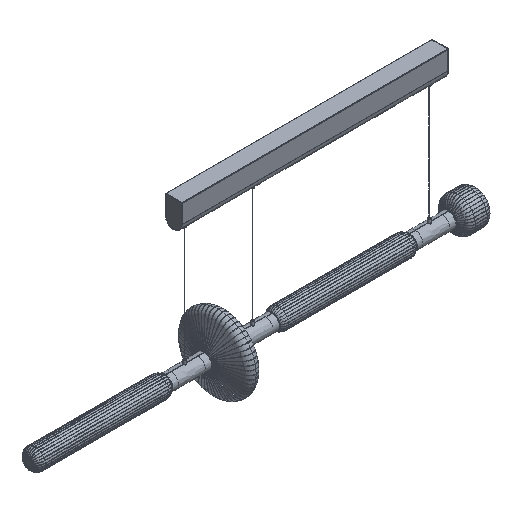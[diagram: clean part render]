
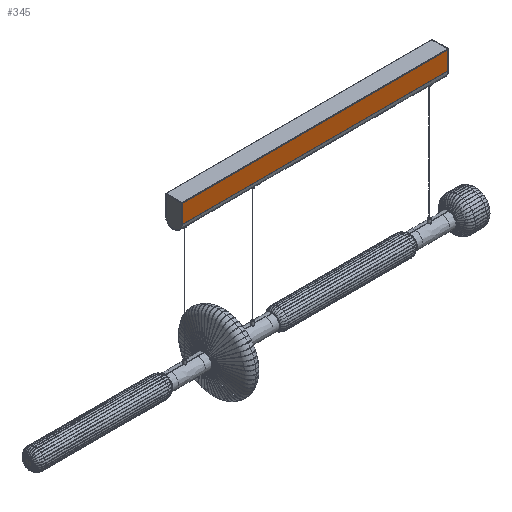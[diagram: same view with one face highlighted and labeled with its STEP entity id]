
A CAD part, isometric view. The second image highlights one B-rep face of the part: STEP entity #345.
In plain terms, the highlighted free-form (B-spline) face has degree [1, 1] with [2, 2] control points.
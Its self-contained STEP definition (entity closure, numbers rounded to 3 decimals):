
#345=ADVANCED_FACE('',(#2181),#57832,.T.);
#2181=FACE_OUTER_BOUND('',#4023,.T.);
#4023=EDGE_LOOP('',(#5925,#5926,#5927,#5928));
#5925=ORIENTED_EDGE('',*,*,#41490,.T.);
#5926=ORIENTED_EDGE('',*,*,#41486,.F.);
#5927=ORIENTED_EDGE('',*,*,#41491,.T.);
#5928=ORIENTED_EDGE('',*,*,#41492,.T.);
#19104=PCURVE('',#58295,#28060);
#19111=PCURVE('',#57832,#28067);
#19112=PCURVE('',#57832,#28068);
#19113=PCURVE('',#57832,#28069);
#19114=PCURVE('',#57832,#28070);
#19116=PCURVE('',#57833,#28072);
#19125=PCURVE('',#57834,#28081);
#19128=PCURVE('',#57835,#28084);
#28060=DEFINITIONAL_REPRESENTATION('',(#46002),#169568);
#28067=DEFINITIONAL_REPRESENTATION('',(#46013),#169568);
#28068=DEFINITIONAL_REPRESENTATION('',(#46014),#169568);
#28069=DEFINITIONAL_REPRESENTATION('',(#46016),#169568);
#28070=DEFINITIONAL_REPRESENTATION('',(#46018),#169568);
#28072=DEFINITIONAL_REPRESENTATION('',(#46021),#169568);
#28081=DEFINITIONAL_REPRESENTATION('',(#46029),#169568);
#28084=DEFINITIONAL_REPRESENTATION('',(#46032),#169568);
#37008=SURFACE_CURVE('',#46001,(#19104,#19112),.PCURVE_S1.);
#37012=SURFACE_CURVE('',#46012,(#19111,#19125),.PCURVE_S1.);
#37013=SURFACE_CURVE('',#46015,(#19113,#19128),.PCURVE_S1.);
#37014=SURFACE_CURVE('',#46017,(#19114,#19116),.PCURVE_S1.);
#41486=EDGE_CURVE('',#55160,#55159,#37008,.T.);
#41490=EDGE_CURVE('',#55161,#55159,#37012,.T.);
#41491=EDGE_CURVE('',#55160,#55162,#37013,.T.);
#41492=EDGE_CURVE('',#55162,#55161,#37014,.T.);
#46001=B_SPLINE_CURVE_WITH_KNOTS('',1,(#60335,#60336),.UNSPECIFIED.,.F.,
 .F.,(2,2),(-780.,0.),.UNSPECIFIED.);
#46002=B_SPLINE_CURVE_WITH_KNOTS('',1,(#60337,#60338),.UNSPECIFIED.,.F.,
 .F.,(2,2),(-780.,0.),.UNSPECIFIED.);
#46012=B_SPLINE_CURVE_WITH_KNOTS('',1,(#60429,#60430),.UNSPECIFIED.,.F.,
 .F.,(2,2),(-56.,0.),.UNSPECIFIED.);
#46013=B_SPLINE_CURVE_WITH_KNOTS('',1,(#60431,#60432),.UNSPECIFIED.,.F.,
 .F.,(2,2),(-56.,0.),.UNSPECIFIED.);
#46014=B_SPLINE_CURVE_WITH_KNOTS('',1,(#60433,#60434),.UNSPECIFIED.,.F.,
 .F.,(2,2),(-780.,0.),.UNSPECIFIED.);
#46015=B_SPLINE_CURVE_WITH_KNOTS('',1,(#60435,#60436),.UNSPECIFIED.,.F.,
 .F.,(2,2),(-56.,0.),.UNSPECIFIED.);
#46016=B_SPLINE_CURVE_WITH_KNOTS('',1,(#60437,#60438),.UNSPECIFIED.,.F.,
 .F.,(2,2),(-56.,0.),.UNSPECIFIED.);
#46017=B_SPLINE_CURVE_WITH_KNOTS('',1,(#60439,#60440),.UNSPECIFIED.,.F.,
 .F.,(2,2),(-780.,0.),.UNSPECIFIED.);
#46018=B_SPLINE_CURVE_WITH_KNOTS('',1,(#60441,#60442),.UNSPECIFIED.,.F.,
 .F.,(2,2),(-780.,0.),.UNSPECIFIED.);
#46021=B_SPLINE_CURVE_WITH_KNOTS('',1,(#60447,#60448),.UNSPECIFIED.,.F.,
 .F.,(2,2),(-780.,0.),.UNSPECIFIED.);
#46029=B_SPLINE_CURVE_WITH_KNOTS('',1,(#60473,#60474),.UNSPECIFIED.,.F.,
 .F.,(2,2),(-56.,0.),.UNSPECIFIED.);
#46032=B_SPLINE_CURVE_WITH_KNOTS('',1,(#60479,#60480),.UNSPECIFIED.,.F.,
 .F.,(2,2),(-56.,0.),.UNSPECIFIED.);
#55159=VERTEX_POINT('',#60003);
#55160=VERTEX_POINT('',#60004);
#55161=VERTEX_POINT('',#60005);
#55162=VERTEX_POINT('',#60006);
#57832=B_SPLINE_SURFACE_WITH_KNOTS('',1,1,((#59933,#59934),(#59935,#59936)),
 .UNSPECIFIED.,.F.,.F.,.F.,(2,2),(2,2),(-5.72,61.72),(-78.12,
858.12),.UNSPECIFIED.);
#57833=B_SPLINE_SURFACE_WITH_KNOTS('',1,1,((#59937,#59938),(#59939,#59940)),
 .UNSPECIFIED.,.F.,.F.,.F.,(2,2),(2,2),(-0.22,1.22),
(-78.12,858.12),.UNSPECIFIED.);
#57834=B_SPLINE_SURFACE_WITH_KNOTS('',1,1,((#59941,#59942),(#59943,#59944)),
 .UNSPECIFIED.,.F.,.F.,.F.,(2,2),(2,2),(-46.156,50.084),
(-28.92,28.92),.UNSPECIFIED.);
#57835=B_SPLINE_SURFACE_WITH_KNOTS('',1,1,((#59945,#59946),(#59947,#59948)),
 .UNSPECIFIED.,.F.,.F.,.F.,(2,2),(2,2),(-28.92,28.92),
(-46.156,50.084),.UNSPECIFIED.);
#58295=(
BOUNDED_SURFACE()
B_SPLINE_SURFACE(2,1,((#59915,#59916),(#59917,#59918),(#59919,#59920),(#59921,
#59922),(#59923,#59924),(#59925,#59926),(#59927,#59928),(#59929,#59930),
(#59931,#59932)),.UNSPECIFIED.,.T.,.F.,.F.)
B_SPLINE_SURFACE_WITH_KNOTS((3,2,2,2,3),(2,2),(0.,37.699,75.398,
113.097,150.796),(0.,936.24),.UNSPECIFIED.)
GEOMETRIC_REPRESENTATION_ITEM()
RATIONAL_B_SPLINE_SURFACE(((1.,1.),(0.707,0.707),
(1.,1.),(0.707,0.707),(1.,1.),(0.707,
0.707),(1.,1.),(0.707,0.707),(1.,1.)))
REPRESENTATION_ITEM('')
SURFACE()
);
#59915=CARTESIAN_POINT('',(-138.083,-0.23,103.537));
#59916=CARTESIAN_POINT('',(798.157,-0.23,103.537));
#59917=CARTESIAN_POINT('',(-138.083,-24.23,103.537));
#59918=CARTESIAN_POINT('',(798.157,-24.23,103.537));
#59919=CARTESIAN_POINT('',(-138.083,-24.23,79.537));
#59920=CARTESIAN_POINT('',(798.157,-24.23,79.537));
#59921=CARTESIAN_POINT('',(-138.083,-24.23,55.537));
#59922=CARTESIAN_POINT('',(798.157,-24.23,55.537));
#59923=CARTESIAN_POINT('',(-138.083,-0.23,55.537));
#59924=CARTESIAN_POINT('',(798.157,-0.23,55.537));
#59925=CARTESIAN_POINT('',(-138.083,23.77,55.537));
#59926=CARTESIAN_POINT('',(798.157,23.77,55.537));
#59927=CARTESIAN_POINT('',(-138.083,23.77,79.537));
#59928=CARTESIAN_POINT('',(798.157,23.77,79.537));
#59929=CARTESIAN_POINT('',(-138.083,23.77,103.537));
#59930=CARTESIAN_POINT('',(798.157,23.77,103.537));
#59931=CARTESIAN_POINT('',(-138.083,-0.23,103.537));
#59932=CARTESIAN_POINT('',(798.157,-0.23,103.537));
#59933=CARTESIAN_POINT('',(-138.083,-24.23,141.257));
#59934=CARTESIAN_POINT('',(798.157,-24.23,141.257));
#59935=CARTESIAN_POINT('',(-138.083,-24.23,73.817));
#59936=CARTESIAN_POINT('',(798.157,-24.23,73.817));
#59937=CARTESIAN_POINT('',(-138.083,-23.01,135.537));
#59938=CARTESIAN_POINT('',(798.157,-23.01,135.537));
#59939=CARTESIAN_POINT('',(-138.083,-24.45,135.537));
#59940=CARTESIAN_POINT('',(798.157,-24.45,135.537));
#59941=CARTESIAN_POINT('',(-59.963,-29.15,47.417));
#59942=CARTESIAN_POINT('',(-59.963,28.69,47.417));
#59943=CARTESIAN_POINT('',(-59.963,-29.15,143.657));
#59944=CARTESIAN_POINT('',(-59.963,28.69,143.657));
#59945=CARTESIAN_POINT('',(720.037,-29.15,47.417));
#59946=CARTESIAN_POINT('',(720.037,-29.15,143.657));
#59947=CARTESIAN_POINT('',(720.037,28.69,47.417));
#59948=CARTESIAN_POINT('',(720.037,28.69,143.657));
#60003=CARTESIAN_POINT('',(-59.963,-24.23,79.537));
#60004=CARTESIAN_POINT('',(720.037,-24.23,79.537));
#60005=CARTESIAN_POINT('',(-59.963,-24.23,135.537));
#60006=CARTESIAN_POINT('',(720.037,-24.23,135.537));
#60335=CARTESIAN_POINT('',(720.037,-24.23,79.537));
#60336=CARTESIAN_POINT('',(-59.963,-24.23,79.537));
#60337=CARTESIAN_POINT('',(37.699,858.12));
#60338=CARTESIAN_POINT('',(37.699,78.12));
#60429=CARTESIAN_POINT('',(-59.963,-24.23,135.537));
#60430=CARTESIAN_POINT('',(-59.963,-24.23,79.537));
#60431=CARTESIAN_POINT('',(0.,0.));
#60432=CARTESIAN_POINT('',(56.,0.));
#60433=CARTESIAN_POINT('',(56.,780.));
#60434=CARTESIAN_POINT('',(56.,0.));
#60435=CARTESIAN_POINT('',(720.037,-24.23,79.537));
#60436=CARTESIAN_POINT('',(720.037,-24.23,135.537));
#60437=CARTESIAN_POINT('',(56.,780.));
#60438=CARTESIAN_POINT('',(0.,780.));
#60439=CARTESIAN_POINT('',(720.037,-24.23,135.537));
#60440=CARTESIAN_POINT('',(-59.963,-24.23,135.537));
#60441=CARTESIAN_POINT('',(0.,780.));
#60442=CARTESIAN_POINT('',(0.,0.));
#60447=CARTESIAN_POINT('',(1.,780.));
#60448=CARTESIAN_POINT('',(1.,0.));
#60473=CARTESIAN_POINT('',(41.964,-24.));
#60474=CARTESIAN_POINT('',(-14.036,-24.));
#60479=CARTESIAN_POINT('',(-24.,-14.036));
#60480=CARTESIAN_POINT('',(-24.,41.964));
#169568=(
GEOMETRIC_REPRESENTATION_CONTEXT(2)
PARAMETRIC_REPRESENTATION_CONTEXT()
REPRESENTATION_CONTEXT('pspace','')
);
